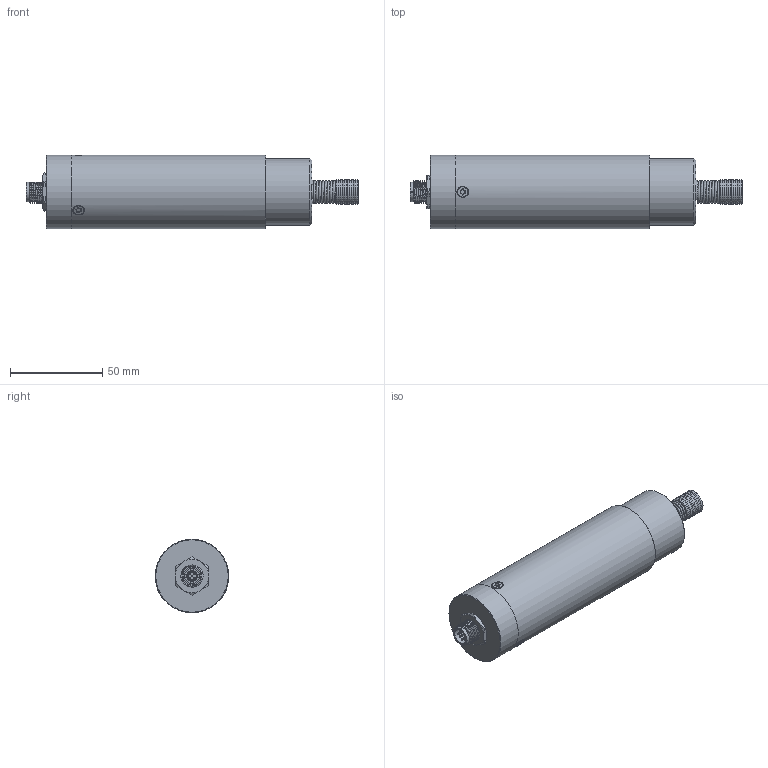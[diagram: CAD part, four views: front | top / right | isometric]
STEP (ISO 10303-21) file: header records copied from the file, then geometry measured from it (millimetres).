
FILE_DESCRIPTION (( 'STEP AP214' ), '1' );
FILE_NAME ('Pluto 10CA-TA.STEP', '2025-10-01T13:02:28', ( '' ), ( '' ), 'SwSTEP 2.0', 'SolidWorks 2024', '' );
FILE_SCHEMA (( 'AUTOMOTIVE_DESIGN' ));
Length unit declared in the file: millimetre
Products named in the file (1): Pluto 10CA-TA
Bounding box: 179.5 x 39.8 x 39.8 mm (x, y, z)
Volume: 130298.9 mm3; surface area: 58779.4 mm2
Topology: 18 solids, 18 shells, 466 faces, 1053 edges, 654 vertices
Faces by surface type: cylinder 166, plane 158, cone 76, torus 32, bspline 30, sphere 4
Full cylindrical faces by diameter (mm): 1 x8, 2.5 x9, 2.58 x1, 3 x26, 3.2 x7, 3.3 x4, 5.5 x7, 5.7 x4, 8.3 x1, 9 x1, 9.4 x1, 9.5 x1, 9.8 x1, 10 x2, 10.1 x1, 10.5 x1, 11.3 x1, 12 x3, 13 x6, 15.5 x1, 18 x1, 19 x1, 20 x1, 20.1 x1, 23 x1, 28 x1, 30.5 x1, 31 x1, 31.2 x1, 31.8 x1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
Entity records: 28988 total; most frequent: CARTESIAN_POINT 14460, DIRECTION 1955, ORIENTED_EDGE 1578, AXIS2_PLACEMENT_3D 857, EDGE_CURVE 789, EDGE_LOOP 741, VERTEX_POINT 596, FACE_OUTER_BOUND 589
